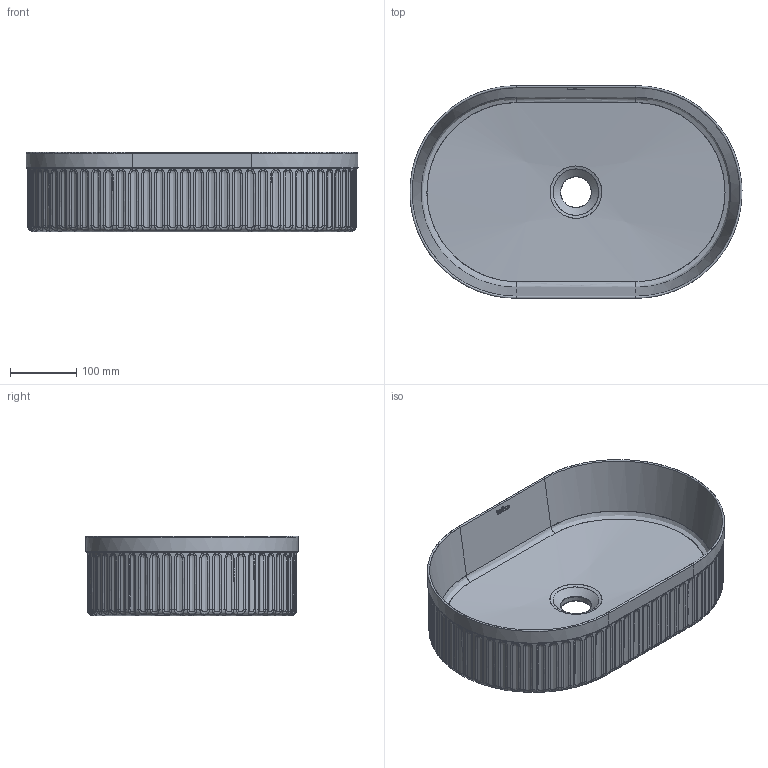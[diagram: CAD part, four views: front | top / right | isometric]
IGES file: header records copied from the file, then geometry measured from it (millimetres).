
Global section: file name: C:\Users\User\Desktop\4180_WADI.igs; native system: Rhinoceros ( May  7 2021 ); preprocessor: Trout Lake IGES 012 May  7 2021; date: 240801.130451; units: millimetre
Bounding box: 499.92 x 320 x 120 mm (x, y, z)
Surface area: 553896.9 mm2 (no closed solid volume)
Topology: 0 solids, 0 shells, 348 faces, 14119 edges, 14102 vertices
Faces by surface type: bspline 348
